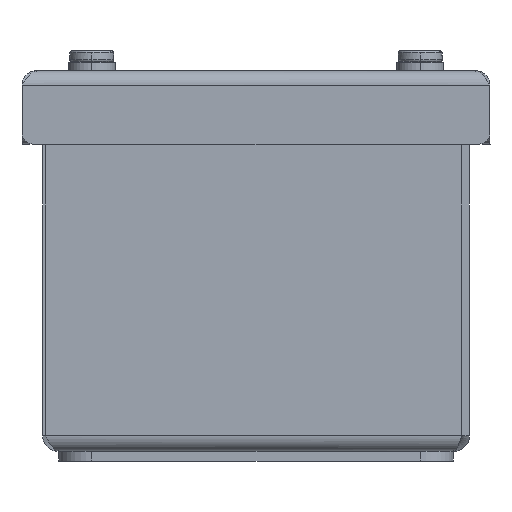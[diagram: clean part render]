
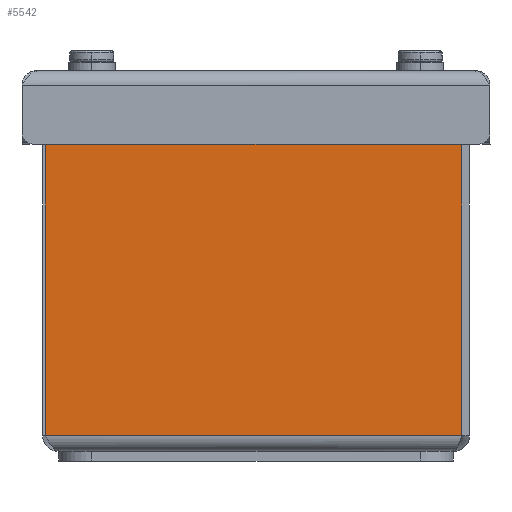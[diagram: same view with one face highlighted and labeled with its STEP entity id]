
A CAD part, left-side view. The second image highlights one B-rep face of the part: STEP entity #5542.
In plain terms, the highlighted planar face has unit normal (-1, 0, 0).
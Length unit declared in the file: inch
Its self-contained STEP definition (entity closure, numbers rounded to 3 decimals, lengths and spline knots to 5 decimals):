
#276=DIRECTION('',(0.,-1.,0.));
#277=VECTOR('',#276,3.168);
#278=CARTESIAN_POINT('',(0.,3.228,0.12));
#279=LINE('',#278,#277);
#1732=DIRECTION('',(0.,-1.,0.));
#1733=VECTOR('',#1732,2.47175);
#1734=CARTESIAN_POINT('',(0.,3.228,2.638));
#1735=LINE('',#1734,#1733);
#1823=DIRECTION('',(0.,0.,1.));
#1824=VECTOR('',#1823,0.052);
#1825=CARTESIAN_POINT('',(0.,0.75625,2.638));
#1826=LINE('',#1825,#1824);
#1830=DIRECTION('',(0.,1.,0.));
#1831=VECTOR('',#1830,0.64425);
#1832=CARTESIAN_POINT('',(0.,0.112,2.69));
#1833=LINE('',#1832,#1831);
#1837=CARTESIAN_POINT('',(0.,0.112,2.638));
#1838=DIRECTION('',(-1.,0.,0.));
#1839=DIRECTION('',(0.,-1.,0.));
#1840=AXIS2_PLACEMENT_3D('',#1837,#1838,#1839);
#1845=DIRECTION('',(0.,0.,1.));
#1846=VECTOR('',#1845,2.518);
#1847=CARTESIAN_POINT('',(0.,3.228,0.12));
#1848=LINE('',#1847,#1846);
#1894=DIRECTION('',(0.,0.,1.));
#1895=VECTOR('',#1894,2.518);
#1896=CARTESIAN_POINT('',(0.,0.06,0.12));
#1897=LINE('',#1896,#1895);
#3603=CARTESIAN_POINT('',(0.,0.75625,2.638));
#3604=CARTESIAN_POINT('',(0.,0.75625,2.69));
#3605=VERTEX_POINT('',#3603);
#3606=VERTEX_POINT('',#3604);
#3651=CARTESIAN_POINT('',(0.,0.06,2.638));
#3652=CARTESIAN_POINT('',(0.,0.112,2.69));
#3653=VERTEX_POINT('',#3651);
#3654=VERTEX_POINT('',#3652);
#3659=CARTESIAN_POINT('',(0.,0.06,0.12));
#3660=VERTEX_POINT('',#3659);
#3663=CARTESIAN_POINT('',(0.,3.228,0.12));
#3664=CARTESIAN_POINT('',(0.,3.228,2.638));
#3665=VERTEX_POINT('',#3663);
#3666=VERTEX_POINT('',#3664);
#5523=CARTESIAN_POINT('',(0.,3.25,0.));
#5524=DIRECTION('',(-1.,0.,0.));
#5525=DIRECTION('',(0.,-1.,0.));
#5526=AXIS2_PLACEMENT_3D('',#5523,#5524,#5525);
#5527=PLANE('',#5526);
#5528=ORIENTED_EDGE('',*,*,#5512,.T.);
#5530=ORIENTED_EDGE('',*,*,#5529,.T.);
#5532=ORIENTED_EDGE('',*,*,#5531,.F.);
#5534=ORIENTED_EDGE('',*,*,#5533,.F.);
#5536=ORIENTED_EDGE('',*,*,#5535,.F.);
#5537=ORIENTED_EDGE('',*,*,#4208,.F.);
#5539=ORIENTED_EDGE('',*,*,#5538,.T.);
#5540=EDGE_LOOP('',(#5528,#5530,#5532,#5534,#5536,#5537,#5539));
#5541=FACE_OUTER_BOUND('',#5540,.F.);
#1841=CIRCLE('',#1840,0.052);
#4208=EDGE_CURVE('',#3665,#3660,#279,.T.);
#5512=EDGE_CURVE('',#3666,#3605,#1735,.T.);
#5529=EDGE_CURVE('',#3605,#3606,#1826,.T.);
#5531=EDGE_CURVE('',#3654,#3606,#1833,.T.);
#5533=EDGE_CURVE('',#3653,#3654,#1841,.T.);
#5535=EDGE_CURVE('',#3660,#3653,#1897,.T.);
#5538=EDGE_CURVE('',#3665,#3666,#1848,.T.);
#5542=ADVANCED_FACE('',(#5541),#5527,.T.);
